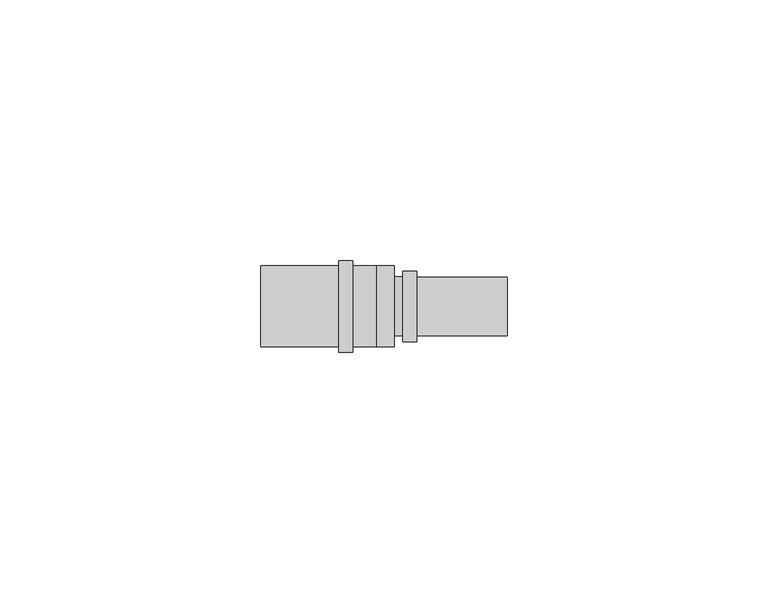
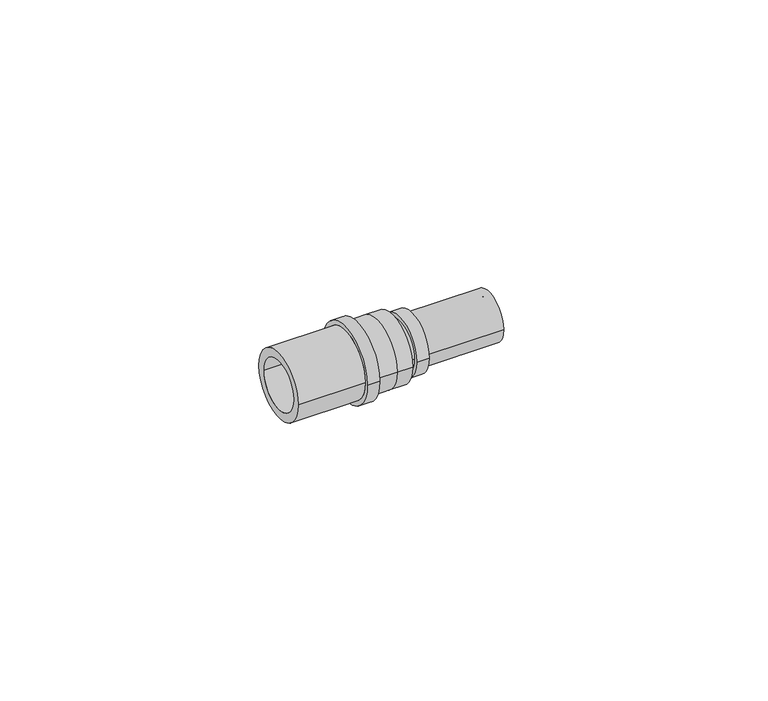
"""IFC4 building model written with IfcOpenShell, lengths in millimetres: pipe fitting geometry, FASTLOC_Coupling reduced LX : FSL C LX PL."""

from ifc_helpers import new_model, si_unit, frame, origin, place, context, project, spatial, polyline, circle_curve, source, transform, mapped, element, save
from ifc_brep_helpers import plane_surface, cylinder_surface, revolved_surface, advanced_brep


def pipe_fitting_4e5b1f9a(model_context):
    return source(origin(), model_context, "Body", "AdvancedBrep", [
        advanced_brep(
        [(-1.5, 7.75, 0.0), (-1.5, -7.75, 0.0), (-6.0, -7.75, 0.0), (-6.0, 7.75, 0.0), (-6.0, 8.8, 0.0), (-6.0, -8.8, 0.0), (-8.7, -8.8, 0.0), (-8.7, 8.8, 0.0), (-8.7, 7.75, 0.0), (-8.7, -7.75, 0.0), (-23.7, -7.75, 0.0), (-23.7, 7.75, 0.0), (-23.7, 5.75, 0.0), (-23.7, -5.75, 0.0), (-1.5, -5.75, 0.0), (-1.5, 5.75, 0.0), (-1.5, 3.8, 0.0), (-1.5, -3.8, 0.0), (23.7, -3.8, 0.0), (23.7, 3.8, 0.0), (23.7, 5.6229189, 0.0), (23.7, -5.6229189, 0.0), (6.3, -5.6229189, 0.0), (6.3, 5.6229189, 0.0), (6.3, 6.75, 0.0), (6.3, -6.75, 0.0), (3.6, -6.75, 0.0), (3.6, 6.75, 0.0), (3.6, 5.65, 0.0), (3.6, -5.65, 0.0), (2.0, -5.65, 0.0), (2.0, 5.65, 0.0), (2.0, 7.75, 0.0), (2.0, -7.75, 0.0)],
        [
            (0, 1, circle_curve(frame((-1.5, 0.0, 0.0), z_axis=(-1.0, 0.0, 0.0), x_axis=(0.0, -1.0, 0.0)), 7.75)),
            (1, 2),
            (2, 3, circle_curve(frame((-6.0, 0.0, 0.0), z_axis=(1.0, 0.0, 0.0), x_axis=(0.0, -1.0, 0.0)), 7.75)),
            (3, 0),
            (4, 5, circle_curve(frame((-6.0, 0.0, 0.0), z_axis=(-1.0, 0.0, 0.0), x_axis=(0.0, -1.0, 0.0)), 8.8)),
            (5, 6),
            (6, 7, circle_curve(frame((-8.7, 0.0, 0.0), z_axis=(1.0, 0.0, 0.0), x_axis=(0.0, -1.0, 0.0)), 8.8)),
            (7, 4),
            (8, 9, circle_curve(frame((-8.7, 0.0, 0.0), z_axis=(-1.0, 0.0, 0.0), x_axis=(0.0, -1.0, 0.0)), 7.75)),
            (9, 10),
            (10, 11, circle_curve(frame((-23.7, 0.0, 0.0), z_axis=(1.0, 0.0, 0.0), x_axis=(0.0, -1.0, 0.0)), 7.75)),
            (11, 8),
            (12, 13, circle_curve(frame((-23.7, 0.0, 0.0), z_axis=(-1.0, 0.0, 0.0), x_axis=(0.0, -1.0, 0.0)), 5.75)),
            (13, 14),
            (14, 15, circle_curve(frame((-1.5, 0.0, 0.0), z_axis=(1.0, 0.0, 0.0), x_axis=(0.0, -1.0, 0.0)), 5.75)),
            (15, 12),
            (1, 0, circle_curve(frame((-1.5, 0.0, 0.0), z_axis=(-1.0, 0.0, 0.0), x_axis=(0.0, 1.0, 0.0)), 7.75)),
            (3, 2, circle_curve(frame((-6.0, 0.0, 0.0), z_axis=(1.0, 0.0, 0.0), x_axis=(0.0, 1.0, 0.0)), 7.75)),
            (4, 5, circle_curve(frame((-6.0, 0.0, 0.0), z_axis=(1.0, 0.0, 0.0), x_axis=(0.0, 1.0, 0.0)), 8.8)),
            (7, 6, circle_curve(frame((-8.7, 0.0, 0.0), z_axis=(1.0, 0.0, 0.0), x_axis=(0.0, 1.0, 0.0)), 8.8)),
            (8, 9, circle_curve(frame((-8.7, 0.0, 0.0), z_axis=(1.0, 0.0, 0.0), x_axis=(0.0, 1.0, 0.0)), 7.75)),
            (11, 10, circle_curve(frame((-23.7, 0.0, 0.0), z_axis=(1.0, 0.0, 0.0), x_axis=(0.0, 1.0, 0.0)), 7.75)),
            (12, 13, circle_curve(frame((-23.7, 0.0, 0.0), z_axis=(1.0, 0.0, 0.0), x_axis=(0.0, 1.0, 0.0)), 5.75)),
            (15, 14, circle_curve(frame((-1.5, 0.0, 0.0), z_axis=(1.0, 0.0, 0.0), x_axis=(0.0, 1.0, 0.0)), 5.75)),
            (16, 17, circle_curve(frame((-1.5, 0.0, 0.0), z_axis=(-1.0, 0.0, 0.0), x_axis=(0.0, -1.0, 0.0)), 3.8)),
            (17, 18),
            (18, 19, circle_curve(frame((23.7, 0.0, 0.0), z_axis=(1.0, 0.0, 0.0), x_axis=(0.0, -1.0, 0.0)), 3.8)),
            (19, 16),
            (20, 21, circle_curve(frame((23.7, 0.0, 0.0), z_axis=(-1.0, 0.0, 0.0), x_axis=(0.0, -1.0, 0.0)), 5.6229189)),
            (21, 22),
            (22, 23, circle_curve(frame((6.3, 0.0, 0.0), z_axis=(1.0, 0.0, 0.0), x_axis=(0.0, -1.0, 0.0)), 5.6229189)),
            (23, 20),
            (24, 25, circle_curve(frame((6.3, 0.0, 0.0), z_axis=(-1.0, 0.0, 0.0), x_axis=(0.0, -1.0, 0.0)), 6.75)),
            (25, 26),
            (26, 27, circle_curve(frame((3.6, 0.0, 0.0), z_axis=(1.0, 0.0, 0.0), x_axis=(0.0, -1.0, 0.0)), 6.75)),
            (27, 24),
            (28, 29, circle_curve(frame((3.6, 0.0, 0.0), z_axis=(-1.0, 0.0, 0.0), x_axis=(0.0, -1.0, 0.0)), 5.65)),
            (29, 30),
            (30, 31, circle_curve(frame((2.0, 0.0, 0.0), z_axis=(1.0, 0.0, 0.0), x_axis=(0.0, -1.0, 0.0)), 5.65)),
            (31, 28),
            (32, 33, circle_curve(frame((2.0, 0.0, 0.0), z_axis=(-1.0, 0.0, 0.0), x_axis=(0.0, -1.0, 0.0)), 7.75)),
            (33, 1),
            (0, 32),
            (16, 17, circle_curve(frame((-1.5, 0.0, 0.0), z_axis=(1.0, 0.0, 0.0), x_axis=(0.0, 1.0, 0.0)), 3.8)),
            (19, 18, circle_curve(frame((23.7, 0.0, 0.0), z_axis=(1.0, 0.0, 0.0), x_axis=(0.0, 1.0, 0.0)), 3.8)),
            (20, 21, circle_curve(frame((23.7, 0.0, 0.0), z_axis=(1.0, 0.0, 0.0), x_axis=(0.0, 1.0, 0.0)), 5.6229189)),
            (23, 22, circle_curve(frame((6.3, 0.0, 0.0), z_axis=(1.0, 0.0, 0.0), x_axis=(0.0, 1.0, 0.0)), 5.6229189)),
            (24, 25, circle_curve(frame((6.3, 0.0, 0.0), z_axis=(1.0, 0.0, 0.0), x_axis=(0.0, 1.0, 0.0)), 6.75)),
            (27, 26, circle_curve(frame((3.6, 0.0, 0.0), z_axis=(1.0, 0.0, 0.0), x_axis=(0.0, 1.0, 0.0)), 6.75)),
            (28, 29, circle_curve(frame((3.6, 0.0, 0.0), z_axis=(1.0, 0.0, 0.0), x_axis=(0.0, 1.0, 0.0)), 5.65)),
            (31, 30, circle_curve(frame((2.0, 0.0, 0.0), z_axis=(1.0, 0.0, 0.0), x_axis=(0.0, 1.0, 0.0)), 5.65)),
            (32, 33, circle_curve(frame((2.0, 0.0, 0.0), z_axis=(1.0, 0.0, 0.0), x_axis=(0.0, 1.0, 0.0)), 7.75)),
        ],
        [
            cylinder_surface(frame((0.0, 0.0, 0.0), z_axis=(1.0, 0.0, 0.0), x_axis=(0.0, -1.0, 0.0)), 7.75),
            cylinder_surface(frame((0.0, 0.0, 0.0), z_axis=(1.0, 0.0, 0.0), x_axis=(0.0, -1.0, 0.0)), 8.8),
            revolved_surface(polyline([(-1.5, -5.75, 0.0), (-23.7, -5.75, 0.0)]), (0.0, 0.0, 0.0), (1.0, 0.0, 0.0)),
            cylinder_surface(frame((0.0, 0.0, 0.0), z_axis=(1.0, 0.0, 0.0), x_axis=(0.0, 1.0, 0.0)), 7.75),
            plane_surface(frame((-6.0, 0.0, 0.0), z_axis=(1.0, 0.0, 0.0), x_axis=(0.0, 1.0, 0.0))),
            cylinder_surface(frame((0.0, 0.0, 0.0), z_axis=(1.0, 0.0, 0.0), x_axis=(0.0, 1.0, 0.0)), 8.8),
            plane_surface(frame((-8.7, 0.0, 0.0), z_axis=(-1.0, 0.0, 0.0), x_axis=(0.0, 1.0, 0.0))),
            plane_surface(frame((-23.7, 0.0, 0.0), z_axis=(-1.0, 0.0, 0.0), x_axis=(0.0, 1.0, 0.0))),
            revolved_surface(polyline([(-1.5, 5.75, 0.0), (-23.7, 5.75, 0.0)]), (0.0, 0.0, 0.0), (1.0, 0.0, 0.0)),
            revolved_surface(polyline([(23.7, -3.8, 0.0), (-1.5, -3.8, 0.0)]), (0.0, 0.0, 0.0), (1.0, 0.0, 0.0)),
            cylinder_surface(frame((0.0, 0.0, 0.0), z_axis=(1.0, 0.0, 0.0), x_axis=(0.0, -1.0, 0.0)), 5.6229189),
            cylinder_surface(frame((0.0, 0.0, 0.0), z_axis=(1.0, 0.0, 0.0), x_axis=(0.0, -1.0, 0.0)), 6.75),
            cylinder_surface(frame((0.0, 0.0, 0.0), z_axis=(1.0, 0.0, 0.0), x_axis=(0.0, -1.0, 0.0)), 5.65),
            plane_surface(frame((-1.5, 0.0, 0.0), z_axis=(-1.0, 0.0, 0.0), x_axis=(0.0, 1.0, 0.0))),
            revolved_surface(polyline([(23.7, 3.8, 0.0), (-1.5, 3.8, 0.0)]), (0.0, 0.0, 0.0), (1.0, 0.0, 0.0)),
            plane_surface(frame((23.7, 0.0, 0.0), z_axis=(1.0, 0.0, 0.0), x_axis=(0.0, 1.0, 0.0))),
            cylinder_surface(frame((0.0, 0.0, 0.0), z_axis=(1.0, 0.0, 0.0), x_axis=(0.0, 1.0, 0.0)), 5.6229189),
            plane_surface(frame((6.3, 0.0, 0.0), z_axis=(1.0, 0.0, 0.0), x_axis=(0.0, 1.0, 0.0))),
            cylinder_surface(frame((0.0, 0.0, 0.0), z_axis=(1.0, 0.0, 0.0), x_axis=(0.0, 1.0, 0.0)), 6.75),
            plane_surface(frame((3.6, 0.0, 0.0), z_axis=(-1.0, 0.0, 0.0), x_axis=(0.0, 1.0, 0.0))),
            cylinder_surface(frame((0.0, 0.0, 0.0), z_axis=(1.0, 0.0, 0.0), x_axis=(0.0, 1.0, 0.0)), 5.65),
            plane_surface(frame((2.0, 0.0, 0.0), z_axis=(1.0, 0.0, 0.0), x_axis=(0.0, 1.0, 0.0))),
        ],
        [
            (0, [[1, 2, 3, 4]]),
            (1, [[5, 6, 7, 8]]),
            (0, [[9, 10, 11, 12]]),
            (2, [[13, 14, 15, 16]]),
            (3, [[17, -4, 18, -2]]),
            (4, [[19, -5], [-18, -3]]),
            (5, [[-19, -8, 20, -6]]),
            (6, [[-20, -7], [21, -9]]),
            (3, [[-21, -12, 22, -10]]),
            (7, [[-22, -11], [23, -13]]),
            (8, [[-23, -16, 24, -14]]),
            (9, [[25, 26, 27, 28]]),
            (10, [[29, 30, 31, 32]]),
            (11, [[33, 34, 35, 36]]),
            (12, [[37, 38, 39, 40]]),
            (0, [[41, 42, -1, 43]]),
            (13, [[-24, -15], [44, -25]]),
            (14, [[-44, -28, 45, -26]]),
            (15, [[46, -29], [-45, -27]]),
            (16, [[-46, -32, 47, -30]]),
            (17, [[48, -33], [-47, -31]]),
            (18, [[-48, -36, 49, -34]]),
            (19, [[-49, -35], [50, -37]]),
            (20, [[-50, -40, 51, -38]]),
            (21, [[52, -41], [-51, -39]]),
            (3, [[-52, -43, -17, -42]]),
        ],
    ),
    ])


if __name__ == "__main__":
    model = new_model("IFC4")
    model_context = context("Model", 3, world=origin())
    ifc_project = project(units=[si_unit("LENGTHUNIT", "METRE", prefix="MILLI")], contexts=[model_context])
    site = spatial("IfcSite", under=ifc_project)
    building = spatial("IfcBuilding", under=site)
    placement = place(None, origin())
    pipe_fitting_shape = pipe_fitting_4e5b1f9a(model_context)
    element("IfcPipeFitting", 1, ObjectType="FASTLOC_Coupling reduced LX : FSL C LX PL", at=placement, inside=building, context=model_context, shape_type="MappedRepresentation", body=[
        mapped(pipe_fitting_shape, transform((0.0, 0.0, 0.0), x_axis=(1.0, 0.0, 0.0), y_axis=(0.0, 1.0, 0.0), z_axis=(0.0, 0.0, 1.0))),
    ])
    save(model, "model.ifc")
